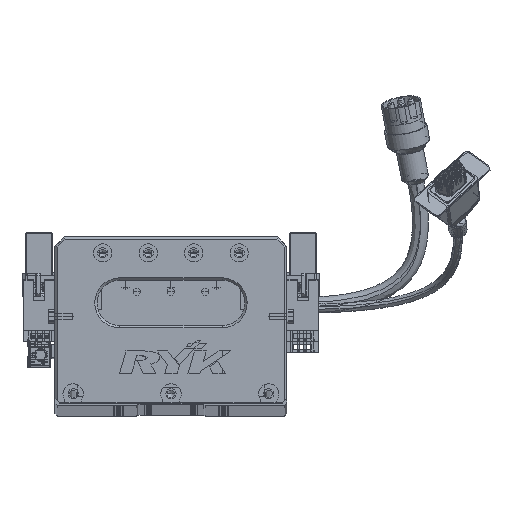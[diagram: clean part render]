
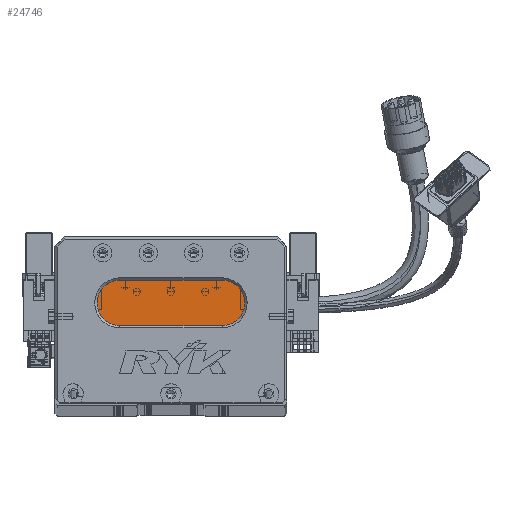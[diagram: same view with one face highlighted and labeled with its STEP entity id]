
A CAD part, top view. The second image highlights one B-rep face of the part: STEP entity #24746.
In plain terms, the highlighted planar face has unit normal (0, 0, 1) as drawn and (0, 0, -1) by its records, which use the part's own axes.
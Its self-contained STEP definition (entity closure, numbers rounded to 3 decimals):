
#57 = CARTESIAN_POINT ( 'NONE',  ( 73.5, 54., 13. ) ) ;
#5050 = EDGE_LOOP ( 'NONE', ( #5464, #17924, #69139, #8007, #88152 ) ) ;
#5464 = ORIENTED_EDGE ( 'NONE', *, *, #31551, .T. ) ;
#7240 = DIRECTION ( 'NONE',  ( -1., 0., 0. ) ) ;
#8007 = ORIENTED_EDGE ( 'NONE', *, *, #20237, .T. ) ;
#8686 = EDGE_CURVE ( 'NONE', #21128, #72987, #29260, .T. ) ;
#9613 = CIRCLE ( 'NONE', #50880, 10. ) ;
#10333 = DIRECTION ( 'NONE',  ( -1., 0., 0. ) ) ;
#11347 = CARTESIAN_POINT ( 'NONE',  ( 73.5, 34., 13. ) ) ;
#11839 = FACE_OUTER_BOUND ( 'NONE', #5050, .T. ) ;
#17924 = ORIENTED_EDGE ( 'NONE', *, *, #58268, .T. ) ;
#18141 = CIRCLE ( 'NONE', #23683, 10. ) ;
#20237 = EDGE_CURVE ( 'NONE', #80625, #21128, #18141, .T. ) ;
#20996 = PLANE ( 'NONE',  #85124 ) ;
#21128 = VERTEX_POINT ( 'NONE', #24147 ) ;
#22847 = VECTOR ( 'NONE', #80117, 1000. ) ;
#23683 = AXIS2_PLACEMENT_3D ( 'NONE', #27889, #27312, #48251 ) ;
#23908 = AXIS2_PLACEMENT_3D ( 'NONE', #57309, #84456, #37305 ) ;
#24147 = CARTESIAN_POINT ( 'NONE',  ( 28.5, 54., 13. ) ) ;
#24746 = ADVANCED_FACE ( 'NONE', ( #11839 ), #20996, .T. ) ;
#27312 = DIRECTION ( 'NONE',  ( 0., 0., -1. ) ) ;
#27889 = CARTESIAN_POINT ( 'NONE',  ( 28.5, 44., 13. ) ) ;
#29260 = LINE ( 'NONE', #66088, #22847 ) ;
#30651 = CARTESIAN_POINT ( 'NONE',  ( 73.5, 34., 13. ) ) ;
#31441 = VECTOR ( 'NONE', #84413, 1000. ) ;
#31551 = EDGE_CURVE ( 'NONE', #72987, #42714, #38483, .T. ) ;
#32032 = EDGE_CURVE ( 'NONE', #62521, #80625, #9613, .T. ) ;
#37305 = DIRECTION ( 'NONE',  ( -1., 0., 0. ) ) ;
#38483 = CIRCLE ( 'NONE', #23908, 10. ) ;
#42714 = VERTEX_POINT ( 'NONE', #11347 ) ;
#43229 = LINE ( 'NONE', #30651, #31441 ) ;
#47908 = DIRECTION ( 'NONE',  ( 0., 0., -1. ) ) ;
#48204 = CARTESIAN_POINT ( 'NONE',  ( 73.5, 44., 13. ) ) ;
#48251 = DIRECTION ( 'NONE',  ( -1., 0., 0. ) ) ;
#50407 = CARTESIAN_POINT ( 'NONE',  ( 28.5, 44., 13. ) ) ;
#50880 = AXIS2_PLACEMENT_3D ( 'NONE', #50407, #51266, #10333 ) ;
#51266 = DIRECTION ( 'NONE',  ( 0., 0., -1. ) ) ;
#57309 = CARTESIAN_POINT ( 'NONE',  ( 73.5, 44., 13. ) ) ;
#58268 = EDGE_CURVE ( 'NONE', #42714, #62521, #43229, .T. ) ;
#62521 = VERTEX_POINT ( 'NONE', #84839 ) ;
#66088 = CARTESIAN_POINT ( 'NONE',  ( 73.5, 54., 13. ) ) ;
#69139 = ORIENTED_EDGE ( 'NONE', *, *, #32032, .T. ) ;
#72987 = VERTEX_POINT ( 'NONE', #57 ) ;
#80117 = DIRECTION ( 'NONE',  ( 1., 0., 0. ) ) ;
#80625 = VERTEX_POINT ( 'NONE', #87200 ) ;
#84413 = DIRECTION ( 'NONE',  ( -1., 0., 0. ) ) ;
#84456 = DIRECTION ( 'NONE',  ( 0., 0., -1. ) ) ;
#84839 = CARTESIAN_POINT ( 'NONE',  ( 28.5, 34., 13. ) ) ;
#85124 = AXIS2_PLACEMENT_3D ( 'NONE', #48204, #47908, #7240 ) ;
#87200 = CARTESIAN_POINT ( 'NONE',  ( 18.5, 44., 13. ) ) ;
#88152 = ORIENTED_EDGE ( 'NONE', *, *, #8686, .T. ) ;
